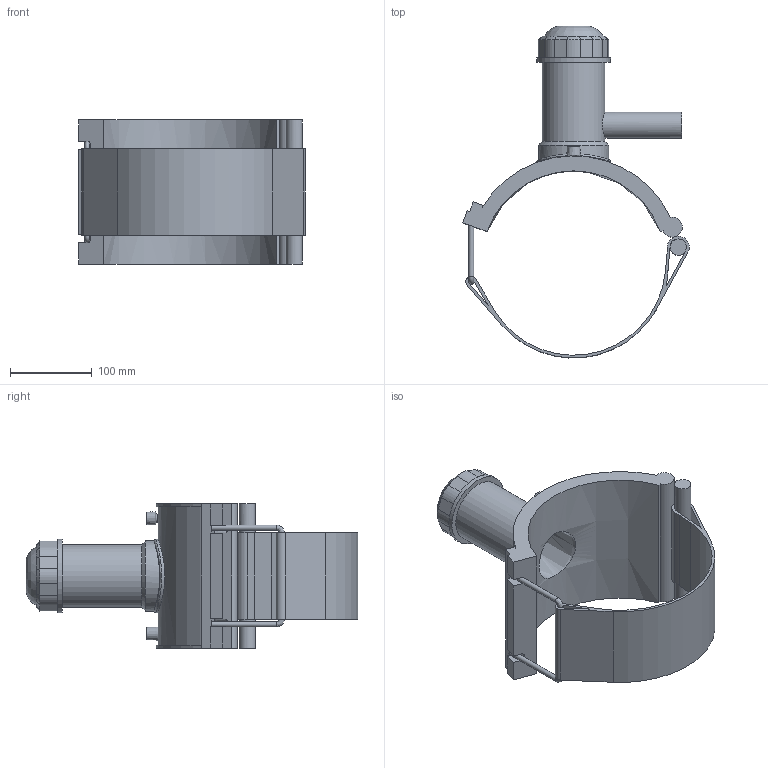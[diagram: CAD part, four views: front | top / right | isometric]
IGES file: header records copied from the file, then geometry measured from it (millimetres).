
Global section: file name: 496304225032.ipt; native system: Autodesk Inventor 2015; preprocessor: unknown; author: KIM; date: 20190124.131211; units: millimetre
Bounding box: 276.37 x 405.2 x 176 mm (x, y, z)
Volume: 1599598.4 mm3; surface area: 343884.5 mm2
Topology: 2 solids, 2 shells, 121 faces, 301 edges, 191 vertices
Faces by surface type: plane 68, cylinder 29, revolution 12, cone 11, bspline 1
Full cylindrical faces by diameter (mm): 4 x2, 6.3 x2, 19.904 x1, 32 x1, 76.5 x1, 85.5 x1, 90 x2
